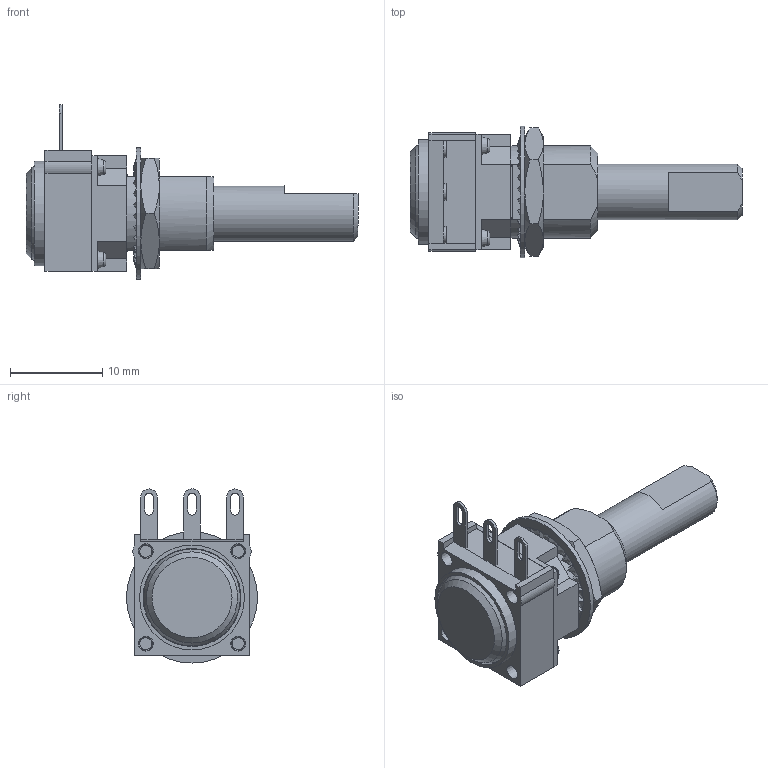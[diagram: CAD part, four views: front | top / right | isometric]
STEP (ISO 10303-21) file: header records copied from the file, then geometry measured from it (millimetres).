
FILE_DESCRIPTION(/* description */ (''),/* implementation_level */ '2;1');
FILE_NAME(/* name */ 'P11L1V0FLFY00103KA',/* time_stamp */ '2023-12-13T13:38:04+01:00',/* author */ ('T MANCINI'),/* organization */ ('Vishay'),/* preprocessor_version */ 'ST-DEVELOPER v18.102',/* originating_system */ 'Solid Edge',/* authorisation */ 'Unknown');
FILE_SCHEMA (('AUTOMOTIVE_DESIGN {1 0 10303 214 3 1 1}'));
Length unit declared in the file: millimetre
Products named in the file (9): P11L1V0FLFY00103KA; 1_oa_0; 2_oa_1; 3_oa_2; 4; 5_oa_3; 6; 7; 8
Assembly tree (8 placements, depth 3):
  P11L1V0FLFY00103KA
    1_oa_0
    2_oa_1
    3_oa_2
      4
      5_oa_3
    6
    7
    8
Bounding box: 35.93 x 14.2 x 18.85 mm (x, y, z)
Volume: 1809.1 mm3; surface area: 3173.6 mm2
Topology: 9 solids, 9 shells, 648 faces, 1805 edges, 1191 vertices
Faces by surface type: plane 334, cylinder 160, bspline 104, cone 41, torus 9
Full cylindrical faces by diameter (mm): 1.3 x4, 1.5 x8, 1.55 x4, 5 x3, 5.25 x1, 5.6 x1, 6 x2, 6.4 x1, 7.42 x1, 7.44 x1, 8.4 x1, 9.188 x1, 9.65 x1, 10.6 x1, 11.35 x1, 14.2 x1
Entity records: 22785 total; most frequent: CARTESIAN_POINT 6572, ORIENTED_EDGE 3444, DIRECTION 2752, EDGE_CURVE 1722, VERTEX_POINT 1168, LINE 940, VECTOR 940, AXIS2_PLACEMENT_3D 906
